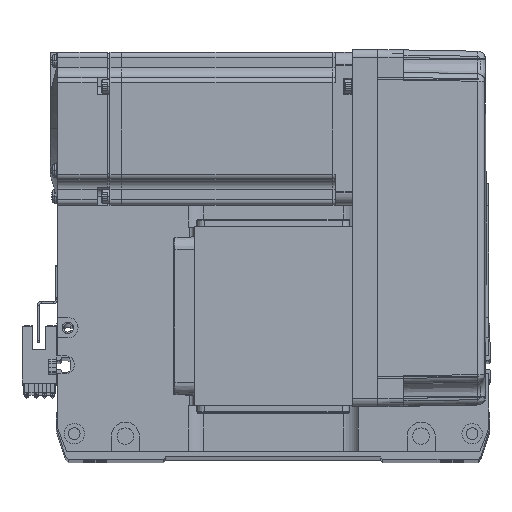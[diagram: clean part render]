
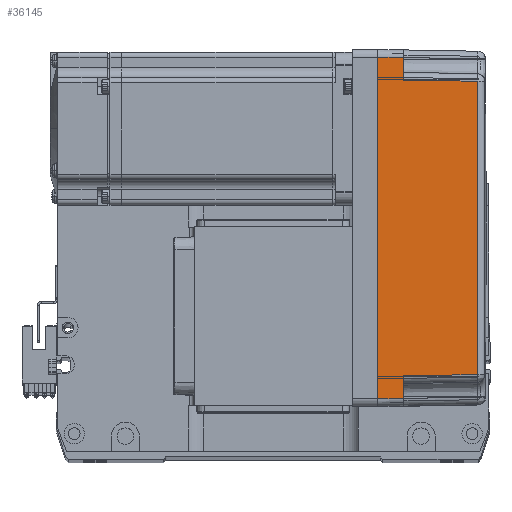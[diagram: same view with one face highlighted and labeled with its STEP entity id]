
A CAD part, top view. The second image highlights one B-rep face of the part: STEP entity #36145.
In plain terms, the highlighted planar face has unit normal (0.018, 0, 1) as drawn and (0, -1, 0.017) by its records, which use the part's own axes.
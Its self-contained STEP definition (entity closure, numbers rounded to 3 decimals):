
#483 = VERTEX_POINT ( 'NONE', #2978 ) ;
#651 = CARTESIAN_POINT ( 'NONE',  ( 58., -35.825, 10. ) ) ;
#1258 = EDGE_CURVE ( 'NONE', #16839, #483, #45007, .T. ) ;
#1517 = CARTESIAN_POINT ( 'NONE',  ( 57.495, -35.32, 38.985 ) ) ;
#1784 = ORIENTED_EDGE ( 'NONE', *, *, #10398, .T. ) ;
#1880 = LINE ( 'NONE', #36294, #14699 ) ;
#2049 = DIRECTION ( 'NONE',  ( 0., -1., 0.017 ) ) ;
#2978 = CARTESIAN_POINT ( 'NONE',  ( -66.826, -35.825, 10. ) ) ;
#6111 = LINE ( 'NONE', #13221, #45103 ) ;
#6318 = ORIENTED_EDGE ( 'NONE', *, *, #52467, .F. ) ;
#6416 = ORIENTED_EDGE ( 'NONE', *, *, #1258, .T. ) ;
#7267 = EDGE_CURVE ( 'NONE', #34488, #51913, #1880, .T. ) ;
#9528 = DIRECTION ( 'NONE',  ( -1., 0., 0. ) ) ;
#10398 = EDGE_CURVE ( 'NONE', #25753, #16839, #52131, .T. ) ;
#11697 = B_SPLINE_CURVE_WITH_KNOTS ( 'NONE', 3,
 ( #29692, #29068, #15385, #58181 ),
 .UNSPECIFIED., .F., .F.,
 ( 4, 4 ),
 ( 0., 1. ),
 .UNSPECIFIED. ) ;
#13221 = CARTESIAN_POINT ( 'NONE',  ( -66.959, -35.958, 2.39 ) ) ;
#14699 = VECTOR ( 'NONE', #60719, 1000. ) ;
#14796 = ORIENTED_EDGE ( 'NONE', *, *, #54154, .F. ) ;
#15385 = CARTESIAN_POINT ( 'NONE',  ( -19.165, -35.316, 39.181 ) ) ;
#15511 = CARTESIAN_POINT ( 'NONE',  ( -57.495, -35.32, 38.985 ) ) ;
#16074 = CARTESIAN_POINT ( 'NONE',  ( -67., -36., 0. ) ) ;
#16318 = ORIENTED_EDGE ( 'NONE', *, *, #7267, .T. ) ;
#16372 = CARTESIAN_POINT ( 'NONE',  ( 70., -36., 0. ) ) ;
#16623 = DIRECTION ( 'NONE',  ( -1., 0., 0. ) ) ;
#16839 = VERTEX_POINT ( 'NONE', #30890 ) ;
#21632 = DIRECTION ( 'NONE',  ( 0., -0.017, -1. ) ) ;
#21736 = CARTESIAN_POINT ( 'NONE',  ( 0., -36., 0. ) ) ;
#22237 = VECTOR ( 'NONE', #59708, 1000. ) ;
#22266 = VECTOR ( 'NONE', #16623, 1000. ) ;
#23771 = EDGE_CURVE ( 'NONE', #47881, #26211, #36404, .T. ) ;
#25261 = LINE ( 'NONE', #30328, #22266 ) ;
#25753 = VERTEX_POINT ( 'NONE', #15511 ) ;
#26211 = VERTEX_POINT ( 'NONE', #1517 ) ;
#29068 = CARTESIAN_POINT ( 'NONE',  ( 19.165, -35.316, 39.181 ) ) ;
#29692 = CARTESIAN_POINT ( 'NONE',  ( 57.495, -35.32, 38.985 ) ) ;
#30328 = CARTESIAN_POINT ( 'NONE',  ( 70., -35.825, 10. ) ) ;
#30890 = CARTESIAN_POINT ( 'NONE',  ( -58., -35.825, 10. ) ) ;
#31815 = DIRECTION ( 'NONE',  ( -0.017, -0.017, -1. ) ) ;
#33163 = AXIS2_PLACEMENT_3D ( 'NONE', #16372, #2049, #21632 ) ;
#34488 = VERTEX_POINT ( 'NONE', #50709 ) ;
#35634 = CARTESIAN_POINT ( 'NONE',  ( 66.826, -35.825, 10. ) ) ;
#36145 = ADVANCED_FACE ( 'NONE', ( #37466 ), #50057, .T. ) ;
#36294 = CARTESIAN_POINT ( 'NONE',  ( 67., -36., 0. ) ) ;
#36404 = LINE ( 'NONE', #60291, #55892 ) ;
#37466 = FACE_OUTER_BOUND ( 'NONE', #41060, .T. ) ;
#38006 = VERTEX_POINT ( 'NONE', #16074 ) ;
#41060 = EDGE_LOOP ( 'NONE', ( #16318, #56725, #59119, #59024, #1784, #6416, #14796, #6318 ) ) ;
#41176 = DIRECTION ( 'NONE',  ( -0.017, 0.017, 1. ) ) ;
#41729 = DIRECTION ( 'NONE',  ( 0.017, 0.017, 1. ) ) ;
#43269 = CARTESIAN_POINT ( 'NONE',  ( 70., -35.825, 10. ) ) ;
#44639 = LINE ( 'NONE', #21736, #22237 ) ;
#45007 = LINE ( 'NONE', #43269, #53282 ) ;
#45103 = VECTOR ( 'NONE', #41729, 1000. ) ;
#47881 = VERTEX_POINT ( 'NONE', #651 ) ;
#47918 = EDGE_CURVE ( 'NONE', #51913, #47881, #25261, .T. ) ;
#50057 = PLANE ( 'NONE',  #33163 ) ;
#50709 = CARTESIAN_POINT ( 'NONE',  ( 67., -36., 0. ) ) ;
#51913 = VERTEX_POINT ( 'NONE', #35634 ) ;
#52131 = LINE ( 'NONE', #55661, #54396 ) ;
#52467 = EDGE_CURVE ( 'NONE', #34488, #38006, #44639, .T. ) ;
#53282 = VECTOR ( 'NONE', #9528, 1000. ) ;
#54154 = EDGE_CURVE ( 'NONE', #38006, #483, #6111, .T. ) ;
#54396 = VECTOR ( 'NONE', #31815, 1000. ) ;
#55661 = CARTESIAN_POINT ( 'NONE',  ( -57.495, -35.32, 38.985 ) ) ;
#55892 = VECTOR ( 'NONE', #41176, 1000. ) ;
#56725 = ORIENTED_EDGE ( 'NONE', *, *, #47918, .T. ) ;
#58181 = CARTESIAN_POINT ( 'NONE',  ( -57.495, -35.32, 38.985 ) ) ;
#59024 = ORIENTED_EDGE ( 'NONE', *, *, #61240, .T. ) ;
#59119 = ORIENTED_EDGE ( 'NONE', *, *, #23771, .T. ) ;
#59708 = DIRECTION ( 'NONE',  ( -1., 0., 0. ) ) ;
#60291 = CARTESIAN_POINT ( 'NONE',  ( 58., -35.825, 10. ) ) ;
#60719 = DIRECTION ( 'NONE',  ( -0.017, 0.017, 1. ) ) ;
#61240 = EDGE_CURVE ( 'NONE', #26211, #25753, #11697, .T. ) ;
